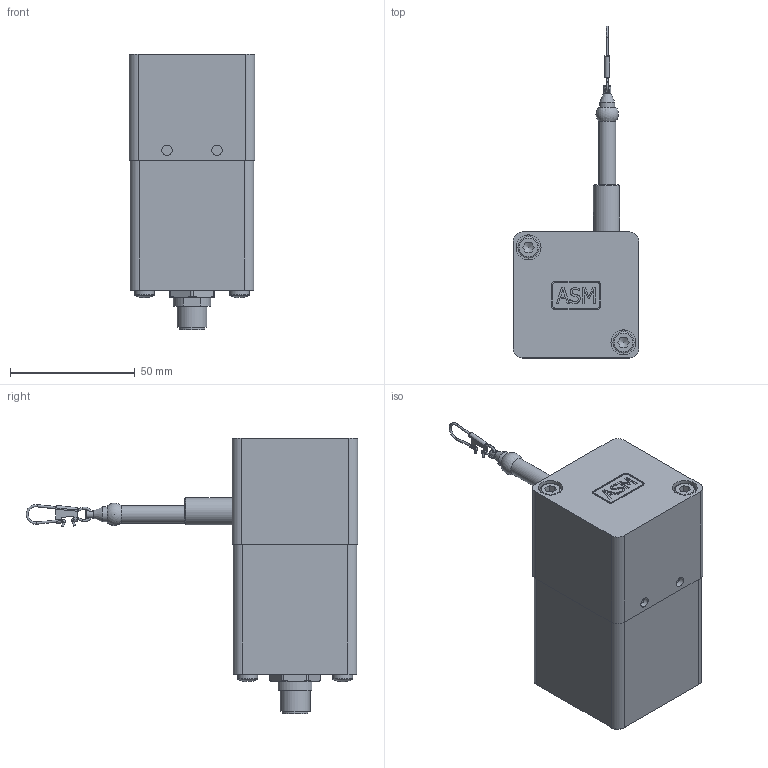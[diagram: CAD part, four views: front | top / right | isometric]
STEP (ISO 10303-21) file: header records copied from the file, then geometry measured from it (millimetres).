
FILE_DESCRIPTION((''),'2;1');
FILE_NAME('K:\Daten\Bauteil2.stp','2012-10-25T13:43:03',('kamp'),(''),'Autodesk Inventor 2008','Autodesk Inventor 2008','');
FILE_SCHEMA(('AUTOMOTIVE_DESIGN { 1 0 10303 214 1 1 1 1 }'));
Length unit declared in the file: millimetre
Products named in the file (1): Bauteil2
Bounding box: 50.35 x 132.8 x 110.4 mm (x, y, z)
Volume: 238983.7 mm3; surface area: 27057.1 mm2
Topology: 1 solids, 1 shells, 283 faces, 733 edges, 480 vertices
Faces by surface type: plane 155, cylinder 59, bspline 52, cone 9, torus 7, sphere 1
Full cylindrical faces by diameter (mm): 0.6 x8, 0.8 x1, 0.9 x7, 1.5 x1, 3 x1, 6 x1, 7 x1, 8 x2, 8.5 x2, 10.4 x1, 12 x1
Entity records: 10074 total; most frequent: CARTESIAN_POINT 3889, ORIENTED_EDGE 1282, DIRECTION 1127, EDGE_CURVE 641, VERTEX_POINT 449, AXIS2_PLACEMENT_3D 389, EDGE_LOOP 384, VECTOR 349
